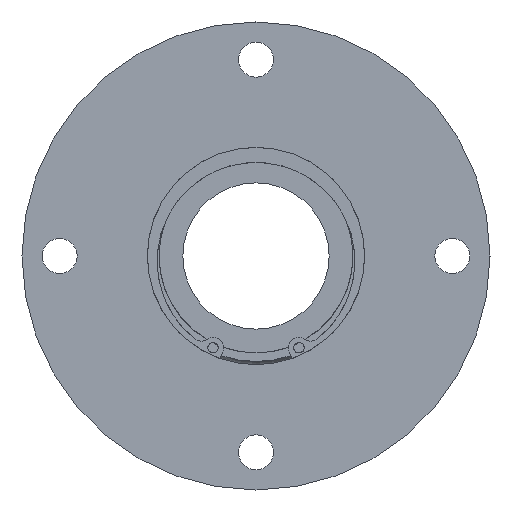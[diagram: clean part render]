
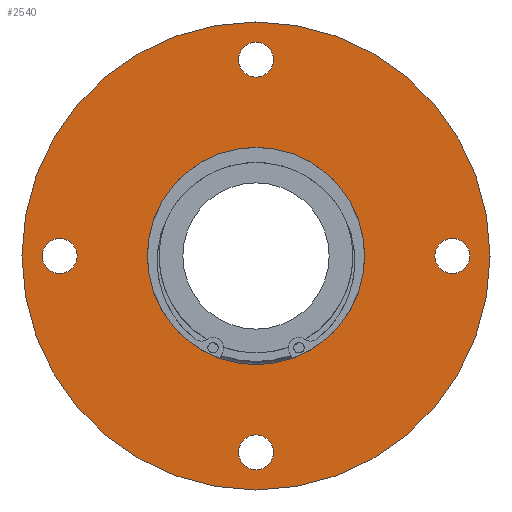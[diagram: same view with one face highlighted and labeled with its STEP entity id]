
A CAD part, left-side view. The second image highlights one B-rep face of the part: STEP entity #2540.
In plain terms, the highlighted planar face has unit normal (-1, 0, 0).
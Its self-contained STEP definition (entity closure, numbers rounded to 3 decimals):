
#1523=CARTESIAN_POINT('',(0.0,47.0,-4.188));
#1524=VERTEX_POINT('',#1523);
#1525=CARTESIAN_POINT('',(0.0,47.0,0.));
#1526=DIRECTION('',(1.0,0.0,0.0));
#1527=DIRECTION('',(0.0,0.0,-1.0));
#1528=AXIS2_PLACEMENT_3D('',#1525,#1526,#1527);
#1529=CIRCLE('',#1528,4.188);
#1530=EDGE_CURVE('',#1524,#1524,#1529,.T.);
#1551=CARTESIAN_POINT('',(0.0,-4.188,-47.0));
#1552=VERTEX_POINT('',#1551);
#1553=CARTESIAN_POINT('',(0.0,0.,-47.0));
#1554=DIRECTION('',(1.0,0.0,0.0));
#1555=DIRECTION('',(0.0,-1.0,0.0));
#1556=AXIS2_PLACEMENT_3D('',#1553,#1554,#1555);
#1557=CIRCLE('',#1556,4.188);
#1558=EDGE_CURVE('',#1552,#1552,#1557,.T.);
#1579=CARTESIAN_POINT('',(0.0,-47.0,4.188));
#1580=VERTEX_POINT('',#1579);
#1581=CARTESIAN_POINT('',(0.0,-47.0,0.));
#1582=DIRECTION('',(1.0,0.0,0.0));
#1583=DIRECTION('',(0.0,0.0,1.0));
#1584=AXIS2_PLACEMENT_3D('',#1581,#1582,#1583);
#1585=CIRCLE('',#1584,4.188);
#1586=EDGE_CURVE('',#1580,#1580,#1585,.T.);
#1607=CARTESIAN_POINT('',(0.0,4.188,47.0));
#1608=VERTEX_POINT('',#1607);
#1609=CARTESIAN_POINT('',(0.0,0.,47.0));
#1610=DIRECTION('',(1.0,0.0,0.0));
#1611=DIRECTION('',(0.0,1.0,0.0));
#1612=AXIS2_PLACEMENT_3D('',#1609,#1610,#1611);
#1613=CIRCLE('',#1612,4.188);
#1614=EDGE_CURVE('',#1608,#1608,#1613,.T.);
#2488=CARTESIAN_POINT('',(0.0,0.0,26.0));
#2489=VERTEX_POINT('',#2488);
#2490=CARTESIAN_POINT('',(0.0,0.0,0.0));
#2491=DIRECTION('',(-1.0,0.0,0.0));
#2492=DIRECTION('',(0.0,0.0,1.0));
#2493=AXIS2_PLACEMENT_3D('',#2490,#2491,#2492);
#2494=CIRCLE('',#2493,26.0);
#2495=EDGE_CURVE('',#2489,#2489,#2494,.T.);
#2509=CARTESIAN_POINT('',(0.0,0.0,41.));
#2510=DIRECTION('',(-1.0,0.0,0.0));
#2511=DIRECTION('',(0.0,0.0,1.0));
#2512=AXIS2_PLACEMENT_3D('',#2509,#2510,#2511);
#2513=PLANE('',#2512);
#2514=CARTESIAN_POINT('',(0.0,0.0,56.));
#2515=VERTEX_POINT('',#2514);
#2516=CARTESIAN_POINT('',(0.0,0.0,0.0));
#2517=DIRECTION('',(-1.0,0.0,0.0));
#2518=DIRECTION('',(0.0,0.0,1.0));
#2519=AXIS2_PLACEMENT_3D('',#2516,#2517,#2518);
#2520=CIRCLE('',#2519,56.);
#2521=EDGE_CURVE('',#2515,#2515,#2520,.T.);
#2522=ORIENTED_EDGE('',*,*,#2521,.T.);
#2523=EDGE_LOOP('',(#2522));
#2524=FACE_OUTER_BOUND('',#2523,.T.);
#2525=ORIENTED_EDGE('',*,*,#1530,.T.);
#2526=EDGE_LOOP('',(#2525));
#2527=FACE_BOUND('',#2526,.T.);
#2528=ORIENTED_EDGE('',*,*,#1558,.T.);
#2529=EDGE_LOOP('',(#2528));
#2530=FACE_BOUND('',#2529,.T.);
#2531=ORIENTED_EDGE('',*,*,#1586,.T.);
#2532=EDGE_LOOP('',(#2531));
#2533=FACE_BOUND('',#2532,.T.);
#2534=ORIENTED_EDGE('',*,*,#1614,.T.);
#2535=EDGE_LOOP('',(#2534));
#2536=FACE_BOUND('',#2535,.T.);
#2537=ORIENTED_EDGE('',*,*,#2495,.F.);
#2538=EDGE_LOOP('',(#2537));
#2539=FACE_BOUND('',#2538,.T.);
#2540=ADVANCED_FACE('',(#2524,#2527,#2530,#2533,#2536,#2539),#2513,.T.);
